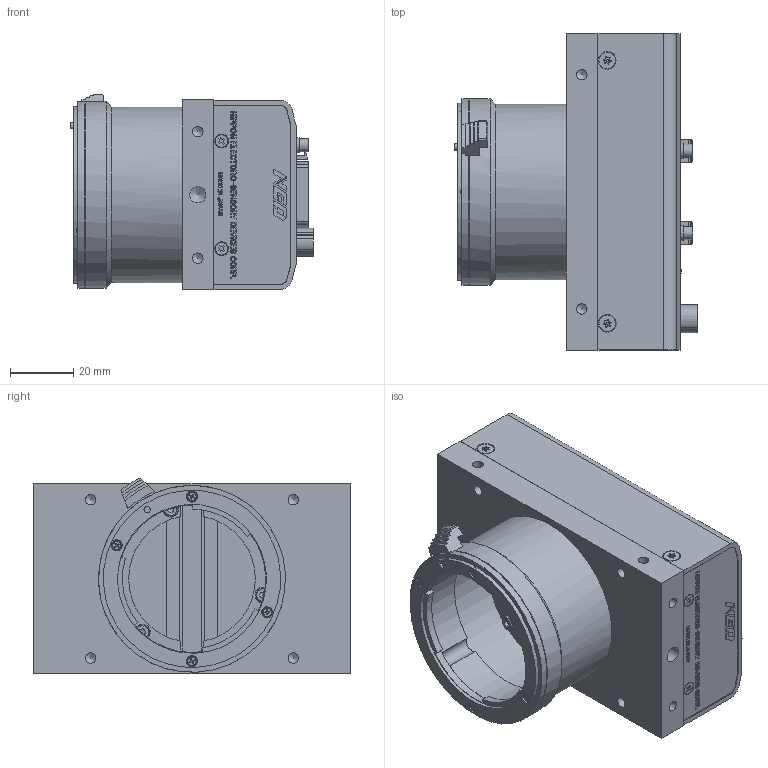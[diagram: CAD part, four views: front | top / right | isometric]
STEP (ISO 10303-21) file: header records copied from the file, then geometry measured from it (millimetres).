
FILE_DESCRIPTION (( 'STEP AP214' ), '1' );
FILE_NAME ('C5-1014-04-42／XCM6085SHT4-V1／外観モデル.STEP', '2017-11-09T02:46:06', ( '' ), ( '' ), 'SwSTEP 2.0', 'SolidWorks 2016', '' );
FILE_SCHEMA (( 'AUTOMOTIVE_DESIGN' ));
Length unit declared in the file: millimetre
Products named in the file (1): C5-1014-04-42／XCM6085SHT4-V1／外観モデル
Bounding box: 76.69 x 100 x 61.8 mm (x, y, z)
Volume: 106290.1 mm3; surface area: 67579.5 mm2
Topology: 1 solids, 26 shells, 3036 faces, 8149 edges, 5422 vertices
Faces by surface type: plane 1844, bspline 787, cylinder 314, cone 87, torus 4
Full cylindrical faces by diameter (mm): 0.611 x6, 0.762 x4, 1.6 x8, 2 x6, 2.05 x6, 2.2 x4, 2.261 x4, 2.4 x4, 2.5 x4, 2.6 x3, 2.8 x7, 3 x4, 3.2 x1, 3.3 x12, 3.5 x5, 4 x4, 4.1 x4, 4.5 x3, 4.8 x4, 5 x4, 5.105 x1, 5.2 x4, 8 x1, 8.85 x1, 11 x1, 11.2 x1, 47 x1, 51.5 x1, 55.5 x1, 55.6 x1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
Entity records: 150189 total; most frequent: CARTESIAN_POINT 47026, ORIENTED_EDGE 15718, DIRECTION 11406, EDGE_CURVE 7859, VECTOR 5472, LINE 5472, VERTEX_POINT 5323, EDGE_LOOP 3516
